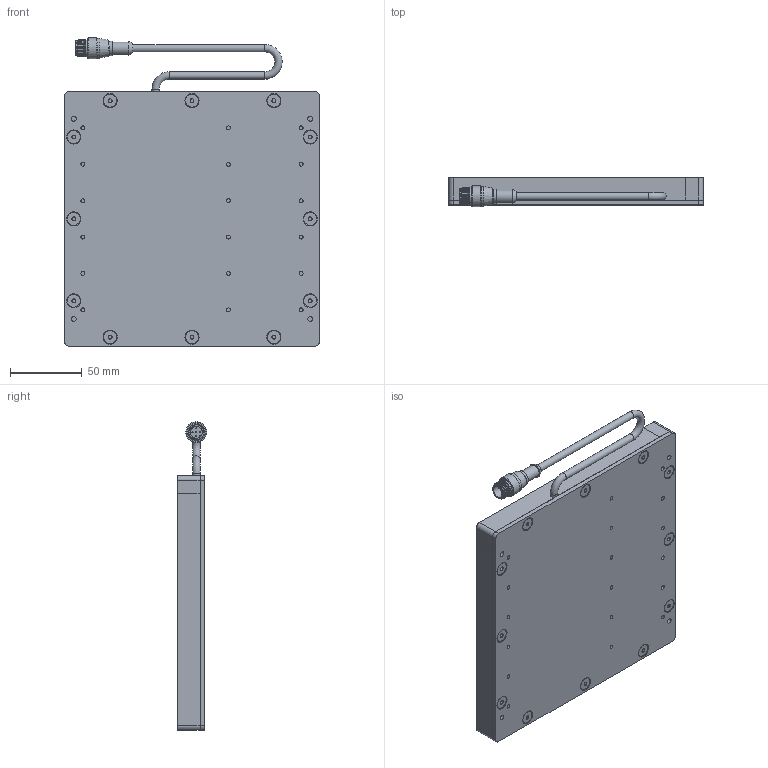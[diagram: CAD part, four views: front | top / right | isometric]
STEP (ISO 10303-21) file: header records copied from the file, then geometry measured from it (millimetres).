
FILE_DESCRIPTION (( 'STEP AP214' ), '1' );
FILE_NAME ('SBL66-XXX-WDC.STEP', '2026-04-17T19:20:39', ( '' ), ( '' ), 'SwSTEP 2.0', 'SolidWorks 2025', '' );
FILE_SCHEMA (( 'AUTOMOTIVE_DESIGN' ));
Length unit declared in the file: inch
Products named in the file (10): BackPlate BLYYXX_0606; Hex Standoff .375 x 8-32; SBL3 to 18in rail_06in rail; M12 Connector 4,5 and 8 pin_RS4.5T; SC Pigtail Complete 18_5pin; SBL66-XXX-WDC; WD-SBLYYXX_6x6; 8-32 x 0.375 FHCS (92210A192)_92210A192; SBL3 to 18in rail_06in No CG; MC Pigtail 24
Assembly tree (33 placements, depth 3):
  SBL66-XXX-WDC
    BackPlate BLYYXX_0606
    SBL3 to 18in rail_06in rail
    SBL3 to 18in rail_06in No CG  x3
    SC Pigtail Complete 18_5pin
      MC Pigtail 24
      M12 Connector 4,5 and 8 pin_RS4.5T
    WD-SBLYYXX_6x6
    Hex Standoff .375 x 8-32  x12
    8-32 x 0.375 FHCS (92210A192)_92210A192  x12
Bounding box: 177.8 x 20.74 x 215.33 mm (x, y, z)
Volume: 303373.8 mm3; surface area: 186460.1 mm2
Topology: 32 solids, 32 shells, 840 faces, 1942 edges, 1191 vertices
Faces by surface type: plane 337, cylinder 238, cone 199, bspline 36, torus 25, sphere 5
Full cylindrical faces by diameter (mm): 0.762 x5, 2.705 x18, 3.454 x16, 4.496 x24, 5.207 x3, 6.604 x8, 6.858 x12, 8.382 x1, 8.636 x1, 9.119 x12, 10.16 x1, 10.541 x1, 11.938 x1, 13.716 x2, 14.732 x1
Entity records: 12122 total; most frequent: CARTESIAN_POINT 3470, DIRECTION 1588, ORIENTED_EDGE 1228, AXIS2_PLACEMENT_3D 668, EDGE_CURVE 614, EDGE_LOOP 532, VERTEX_POINT 462, FACE_OUTER_BOUND 385
